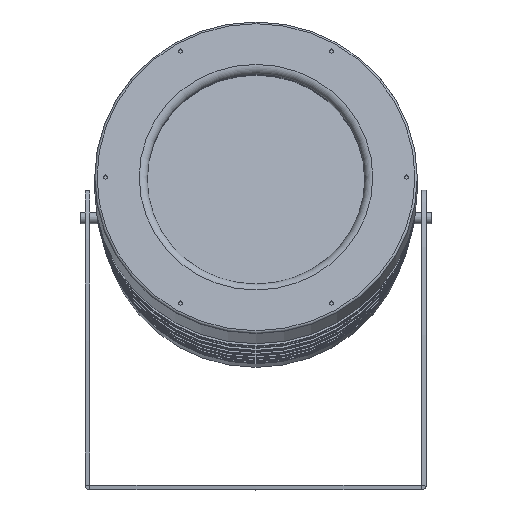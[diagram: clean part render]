
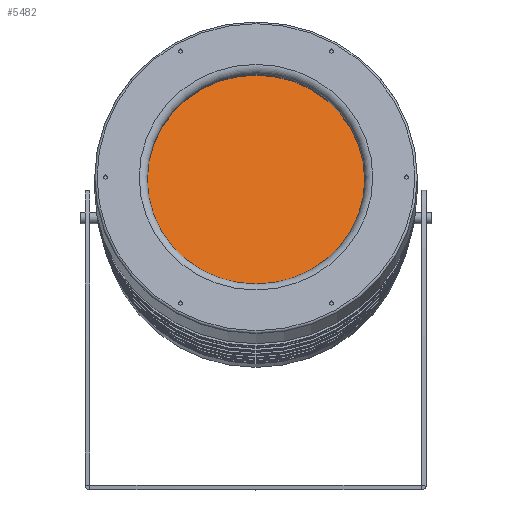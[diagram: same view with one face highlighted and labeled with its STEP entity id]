
A CAD part, top view. The second image highlights one B-rep face of the part: STEP entity #5482.
In plain terms, the highlighted planar face has unit normal (0, 0.259, 0.966).
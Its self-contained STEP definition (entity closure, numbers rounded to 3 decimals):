
#529=PLANE('',#6186);
#885=FACE_OUTER_BOUND('',#1361,.T.);
#1361=EDGE_LOOP('',(#4997));
#2280=CIRCLE('',#6184,62.5);
#2777=VERTEX_POINT('',#12148);
#3519=EDGE_CURVE('',#2777,#2777,#2280,.T.);
#4997=ORIENTED_EDGE('',*,*,#3519,.T.);
#5482=ADVANCED_FACE('',(#885),#529,.T.);
#6184=AXIS2_PLACEMENT_3D('',#12149,#7805,#7806);
#6186=AXIS2_PLACEMENT_3D('',#12153,#7810,#7811);
#7805=DIRECTION('center_axis',(0.,0.259,
0.966));
#7806=DIRECTION('ref_axis',(1.,0.,0.));
#7810=DIRECTION('center_axis',(0.,0.259,
0.966));
#7811=DIRECTION('ref_axis',(1.,0.,0.));
#12148=CARTESIAN_POINT('',(-62.5,16.306,1112.788));
#12149=CARTESIAN_POINT('Origin',(0.,16.306,
1112.788));
#12153=CARTESIAN_POINT('Origin',(0.,16.306,
1112.788));
